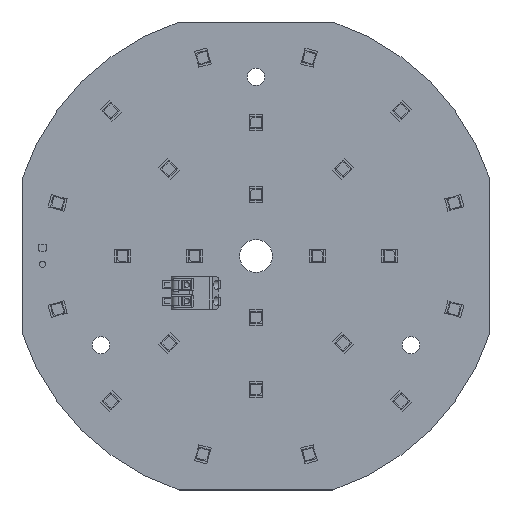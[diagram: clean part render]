
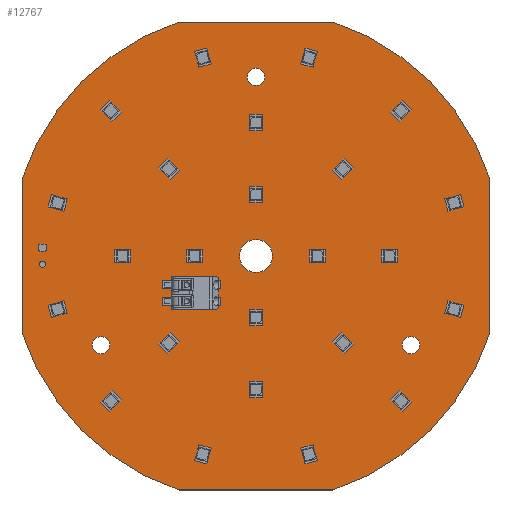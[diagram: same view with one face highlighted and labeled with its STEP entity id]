
A CAD part, top view. The second image highlights one B-rep face of the part: STEP entity #12767.
In plain terms, the highlighted planar face has unit normal (0, 0, 1).
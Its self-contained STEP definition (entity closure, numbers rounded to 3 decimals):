
#3 = ORIENTED_EDGE ( 'NONE', *, *, #18841, .F. ) ;
#45 = CARTESIAN_POINT ( 'NONE',  ( 22.15, 43.25, 0. ) ) ;
#180 = FACE_BOUND ( 'NONE', #1374, .T. ) ;
#243 = CARTESIAN_POINT ( 'NONE',  ( 24.25, 43.25, 0. ) ) ;
#303 = AXIS2_PLACEMENT_3D ( 'NONE', #31658, #15906, #34327 ) ;
#901 = DIRECTION ( 'NONE',  ( 1., 0., 0. ) ) ;
#1003 = CARTESIAN_POINT ( 'NONE',  ( 97.65, 43.25, 0. ) ) ;
#1060 = ORIENTED_EDGE ( 'NONE', *, *, #20348, .F. ) ;
#1374 = EDGE_LOOP ( 'NONE', ( #27017, #9049 ) ) ;
#1972 = CARTESIAN_POINT ( 'NONE',  ( 5., 83.735, 0. ) ) ;
#2072 = AXIS2_PLACEMENT_3D ( 'NONE', #29322, #13524, #31959 ) ;
#2984 = CARTESIAN_POINT ( 'NONE',  ( 119., 46.265, 0. ) ) ;
#3010 = DIRECTION ( 'NONE',  ( 1., 0., 0. ) ) ;
#3587 = VERTEX_POINT ( 'NONE', #19869 ) ;
#4492 = DIRECTION ( 'NONE',  ( 0., 0., 1. ) ) ;
#4997 = CARTESIAN_POINT ( 'NONE',  ( 119., 83.735, 0. ) ) ;
#5180 = AXIS2_PLACEMENT_3D ( 'NONE', #26066, #10297, #28695 ) ;
#5625 = DIRECTION ( 'NONE',  ( 0., -1., 0. ) ) ;
#5724 = CIRCLE ( 'NONE', #2072, 2.1 ) ;
#5839 = LINE ( 'NONE', #29879, #20075 ) ;
#5919 = CARTESIAN_POINT ( 'NONE',  ( 62., 65., 0. ) ) ;
#6310 = CIRCLE ( 'NONE', #32444, 2.1 ) ;
#6622 = VERTEX_POINT ( 'NONE', #14362 ) ;
#6892 = CARTESIAN_POINT ( 'NONE',  ( 62., 65., 0. ) ) ;
#6897 = ORIENTED_EDGE ( 'NONE', *, *, #16900, .F. ) ;
#7450 = FACE_BOUND ( 'NONE', #12669, .T. ) ;
#7632 = ORIENTED_EDGE ( 'NONE', *, *, #18576, .F. ) ;
#7672 = AXIS2_PLACEMENT_3D ( 'NONE', #31292, #15513, #33938 ) ;
#8408 = ORIENTED_EDGE ( 'NONE', *, *, #18174, .F. ) ;
#8635 = DIRECTION ( 'NONE',  ( 1., 0., 0. ) ) ;
#9049 = ORIENTED_EDGE ( 'NONE', *, *, #15924, .F. ) ;
#9257 = VERTEX_POINT ( 'NONE', #25554 ) ;
#9576 = LINE ( 'NONE', #2984, #23654 ) ;
#9588 = DIRECTION ( 'NONE',  ( 1., 0., 0. ) ) ;
#9735 = VERTEX_POINT ( 'NONE', #18109 ) ;
#9833 = CARTESIAN_POINT ( 'NONE',  ( 64.1, 108.625, 0. ) ) ;
#10272 = ORIENTED_EDGE ( 'NONE', *, *, #29641, .F. ) ;
#10297 = DIRECTION ( 'NONE',  ( 0., 0., -1. ) ) ;
#10583 = AXIS2_PLACEMENT_3D ( 'NONE', #6892, #25355, #9588 ) ;
#11112 = CIRCLE ( 'NONE', #31107, 4. ) ;
#11123 = VECTOR ( 'NONE', #29745, 1000. ) ;
#11297 = ORIENTED_EDGE ( 'NONE', *, *, #19849, .F. ) ;
#11307 = CARTESIAN_POINT ( 'NONE',  ( 5., 122., 0. ) ) ;
#11651 = FACE_BOUND ( 'NONE', #27943, .T. ) ;
#11960 = LINE ( 'NONE', #11307, #11123 ) ;
#12022 = VERTEX_POINT ( 'NONE', #30534 ) ;
#12081 = VERTEX_POINT ( 'NONE', #29422 ) ;
#12669 = EDGE_LOOP ( 'NONE', ( #1060, #15403 ) ) ;
#12767 = ADVANCED_FACE ( 'NONE', ( #180, #7450, #11651, #22788, #27707 ), #15293, .F. ) ;
#12921 = DIRECTION ( 'NONE',  ( 0., 0., 1. ) ) ;
#12990 = DIRECTION ( 'NONE',  ( 0., 0., 1. ) ) ;
#13510 = CIRCLE ( 'NONE', #19179, 2.1 ) ;
#13524 = DIRECTION ( 'NONE',  ( 0., 0., 1. ) ) ;
#14090 = AXIS2_PLACEMENT_3D ( 'NONE', #243, #19034, #3010 ) ;
#14362 = CARTESIAN_POINT ( 'NONE',  ( 5., 46.265, 0. ) ) ;
#14394 = DIRECTION ( 'NONE',  ( 0., 0., 1. ) ) ;
#14634 = VERTEX_POINT ( 'NONE', #23431 ) ;
#14843 = DIRECTION ( 'NONE',  ( -1., 0., 0. ) ) ;
#14865 = DIRECTION ( 'NONE',  ( 0., 0., -1. ) ) ;
#14873 = CARTESIAN_POINT ( 'NONE',  ( 5., 46.265, 0. ) ) ;
#15135 = ORIENTED_EDGE ( 'NONE', *, *, #19194, .F. ) ;
#15293 = PLANE ( 'NONE',  #32984 ) ;
#15403 = ORIENTED_EDGE ( 'NONE', *, *, #16286, .F. ) ;
#15513 = DIRECTION ( 'NONE',  ( 0., 0., -1. ) ) ;
#15721 = CARTESIAN_POINT ( 'NONE',  ( 5., 46.265, 0. ) ) ;
#15734 = ORIENTED_EDGE ( 'NONE', *, *, #17468, .F. ) ;
#15826 = VERTEX_POINT ( 'NONE', #9833 ) ;
#15906 = DIRECTION ( 'NONE',  ( 0., 0., 1. ) ) ;
#15924 = EDGE_CURVE ( 'NONE', #22282, #9735, #13510, .T. ) ;
#16046 = ORIENTED_EDGE ( 'NONE', *, *, #20107, .F. ) ;
#16161 = AXIS2_PLACEMENT_3D ( 'NONE', #28758, #12990, #31454 ) ;
#16286 = EDGE_CURVE ( 'NONE', #12022, #15826, #18472, .T. ) ;
#16600 = EDGE_CURVE ( 'NONE', #14634, #28588, #22697, .T. ) ;
#16752 = DIRECTION ( 'NONE',  ( -1., 0., 0. ) ) ;
#16900 = EDGE_CURVE ( 'NONE', #26997, #3587, #29783, .T. ) ;
#16988 = DIRECTION ( 'NONE',  ( 0., 0., 1. ) ) ;
#17468 = EDGE_CURVE ( 'NONE', #6622, #33525, #26486, .T. ) ;
#17650 = AXIS2_PLACEMENT_3D ( 'NONE', #32716, #16988, #901 ) ;
#17912 = EDGE_CURVE ( 'NONE', #33525, #31612, #23651, .T. ) ;
#18109 = CARTESIAN_POINT ( 'NONE',  ( 101.85, 43.25, 0. ) ) ;
#18174 = EDGE_CURVE ( 'NONE', #31612, #9257, #11960, .T. ) ;
#18472 = CIRCLE ( 'NONE', #17650, 2.1 ) ;
#18576 = EDGE_CURVE ( 'NONE', #9257, #33615, #19697, .T. ) ;
#18841 = EDGE_CURVE ( 'NONE', #33615, #12081, #9576, .T. ) ;
#19034 = DIRECTION ( 'NONE',  ( 0., 0., 1. ) ) ;
#19179 = AXIS2_PLACEMENT_3D ( 'NONE', #28693, #12921, #31375 ) ;
#19194 = EDGE_CURVE ( 'NONE', #12081, #31719, #21630, .T. ) ;
#19449 = EDGE_CURVE ( 'NONE', #31719, #20998, #5839, .T. ) ;
#19544 = ORIENTED_EDGE ( 'NONE', *, *, #19449, .F. ) ;
#19697 = CIRCLE ( 'NONE', #7672, 60. ) ;
#19849 = EDGE_CURVE ( 'NONE', #3587, #26997, #29378, .T. ) ;
#19869 = CARTESIAN_POINT ( 'NONE',  ( 26.35, 43.25, 0. ) ) ;
#20075 = VECTOR ( 'NONE', #16752, 1000. ) ;
#20107 = EDGE_CURVE ( 'NONE', #28588, #14634, #11112, .T. ) ;
#20316 = CARTESIAN_POINT ( 'NONE',  ( 43.265, 8., 0. ) ) ;
#20348 = EDGE_CURVE ( 'NONE', #15826, #12022, #6310, .T. ) ;
#20356 = CARTESIAN_POINT ( 'NONE',  ( 62., 108.625, 0. ) ) ;
#20471 = CARTESIAN_POINT ( 'NONE',  ( 80.735, 8., 0. ) ) ;
#20540 = EDGE_CURVE ( 'NONE', #9735, #22282, #5724, .T. ) ;
#20998 = VERTEX_POINT ( 'NONE', #20316 ) ;
#20999 = DIRECTION ( 'NONE',  ( 0., 1., 0. ) ) ;
#21630 = CIRCLE ( 'NONE', #5180, 60. ) ;
#22282 = VERTEX_POINT ( 'NONE', #1003 ) ;
#22284 = AXIS2_PLACEMENT_3D ( 'NONE', #5919, #24382, #8635 ) ;
#22697 = CIRCLE ( 'NONE', #16161, 4. ) ;
#22729 = EDGE_LOOP ( 'NONE', ( #15135, #3, #7632, #8408, #25259, #15734, #10272, #19544 ) ) ;
#22788 = FACE_BOUND ( 'NONE', #26882, .T. ) ;
#22976 = DIRECTION ( 'NONE',  ( 1., 0., 0. ) ) ;
#23431 = CARTESIAN_POINT ( 'NONE',  ( 58., 65., 0. ) ) ;
#23651 = CIRCLE ( 'NONE', #10583, 60. ) ;
#23654 = VECTOR ( 'NONE', #5625, 1000. ) ;
#24382 = DIRECTION ( 'NONE',  ( 0., 0., -1. ) ) ;
#25259 = ORIENTED_EDGE ( 'NONE', *, *, #17912, .F. ) ;
#25355 = DIRECTION ( 'NONE',  ( 0., 0., -1. ) ) ;
#25554 = CARTESIAN_POINT ( 'NONE',  ( 80.735, 122., 0. ) ) ;
#25739 = CARTESIAN_POINT ( 'NONE',  ( 66., 65., 0. ) ) ;
#26066 = CARTESIAN_POINT ( 'NONE',  ( 62., 65., 0. ) ) ;
#26486 = LINE ( 'NONE', #15721, #27172 ) ;
#26882 = EDGE_LOOP ( 'NONE', ( #11297, #6897 ) ) ;
#26997 = VERTEX_POINT ( 'NONE', #45 ) ;
#27017 = ORIENTED_EDGE ( 'NONE', *, *, #20540, .F. ) ;
#27172 = VECTOR ( 'NONE', #20999, 1000. ) ;
#27661 = CIRCLE ( 'NONE', #22284, 60. ) ;
#27707 = FACE_OUTER_BOUND ( 'NONE', #22729, .T. ) ;
#27943 = EDGE_LOOP ( 'NONE', ( #16046, #33688 ) ) ;
#28219 = CARTESIAN_POINT ( 'NONE',  ( 43.265, 122., 0. ) ) ;
#28588 = VERTEX_POINT ( 'NONE', #25739 ) ;
#28693 = CARTESIAN_POINT ( 'NONE',  ( 99.75, 43.25, 0. ) ) ;
#28695 = DIRECTION ( 'NONE',  ( 1., 0., 0. ) ) ;
#28758 = CARTESIAN_POINT ( 'NONE',  ( 62., 65., 0. ) ) ;
#29322 = CARTESIAN_POINT ( 'NONE',  ( 99.75, 43.25, 0. ) ) ;
#29378 = CIRCLE ( 'NONE', #303, 2.1 ) ;
#29422 = CARTESIAN_POINT ( 'NONE',  ( 119., 46.265, 0. ) ) ;
#29641 = EDGE_CURVE ( 'NONE', #20998, #6622, #27661, .T. ) ;
#29745 = DIRECTION ( 'NONE',  ( 1., 0., 0. ) ) ;
#29783 = CIRCLE ( 'NONE', #14090, 2.1 ) ;
#29879 = CARTESIAN_POINT ( 'NONE',  ( 5., 8., 0. ) ) ;
#30183 = CARTESIAN_POINT ( 'NONE',  ( 62., 65., 0. ) ) ;
#30534 = CARTESIAN_POINT ( 'NONE',  ( 59.9, 108.625, 0. ) ) ;
#31107 = AXIS2_PLACEMENT_3D ( 'NONE', #30183, #14394, #32788 ) ;
#31292 = CARTESIAN_POINT ( 'NONE',  ( 62., 65., 0. ) ) ;
#31375 = DIRECTION ( 'NONE',  ( 1., 0., 0. ) ) ;
#31454 = DIRECTION ( 'NONE',  ( 1., 0., 0. ) ) ;
#31612 = VERTEX_POINT ( 'NONE', #28219 ) ;
#31658 = CARTESIAN_POINT ( 'NONE',  ( 24.25, 43.25, 0. ) ) ;
#31719 = VERTEX_POINT ( 'NONE', #20471 ) ;
#31959 = DIRECTION ( 'NONE',  ( 1., 0., 0. ) ) ;
#32444 = AXIS2_PLACEMENT_3D ( 'NONE', #20356, #4492, #22976 ) ;
#32716 = CARTESIAN_POINT ( 'NONE',  ( 62., 108.625, 0. ) ) ;
#32788 = DIRECTION ( 'NONE',  ( 1., 0., 0. ) ) ;
#32984 = AXIS2_PLACEMENT_3D ( 'NONE', #14873, #14865, #14843 ) ;
#33525 = VERTEX_POINT ( 'NONE', #1972 ) ;
#33615 = VERTEX_POINT ( 'NONE', #4997 ) ;
#33688 = ORIENTED_EDGE ( 'NONE', *, *, #16600, .F. ) ;
#33938 = DIRECTION ( 'NONE',  ( 1., 0., 0. ) ) ;
#34327 = DIRECTION ( 'NONE',  ( 1., 0., 0. ) ) ;
